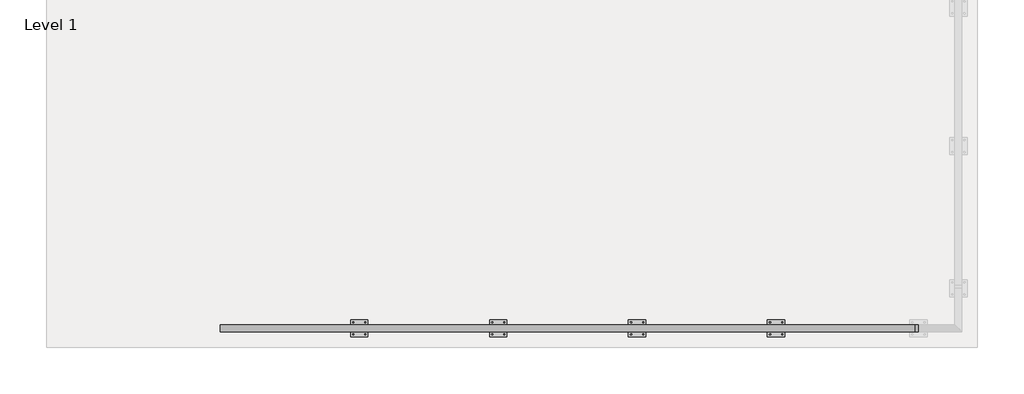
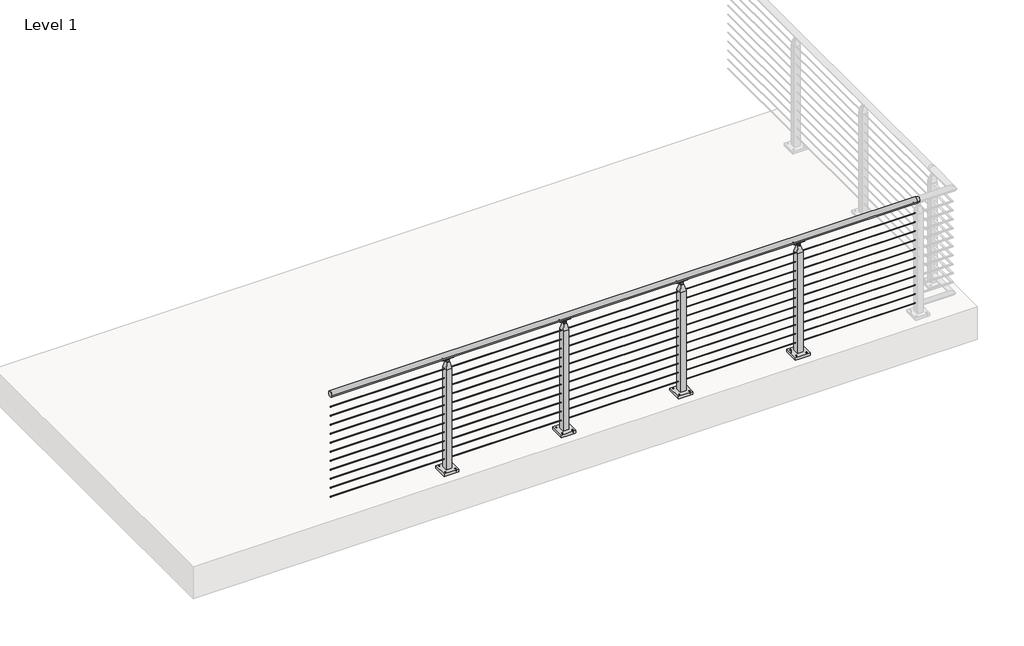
# One storey, part 9 of 26: 1 railing.
"""IFC4 building model written with IfcOpenShell, lengths in millimetres."""

from ifc_helpers import new_model, si_unit, point, frame, frame_2d, origin, origin_with_axes, place, context, project, spatial, polyline, circle_curve, trimmed, segment, composite_curve, outline, extrude, faceted_brep, element, save
from ifc_brep_helpers import plane_surface, cylinder_surface, advanced_brep

model = new_model("IFC4")

# Units and contexts
model_context = context("Model", 3, world=origin())
ifc_project = project(units=[si_unit("LENGTHUNIT", "METRE", prefix="MILLI")], contexts=[model_context])

# Site, building, storey
site = spatial("IfcSite", under=ifc_project)
building = spatial("IfcBuilding", under=site)
storey = spatial("IfcBuildingStorey", under=building, Name="Level 1", Elevation=0.0)

# Railing
placement = place(None, origin())
element("IfcRailing", 1, ObjectType="VIVA-CUBE-Cable-Floor Mount-Straight", at=placement, inside=storey, context=model_context, shape_type="SolidModel", body=[
    advanced_brep(
    [(14206.7823997, -57070.1334719, 1054.1), (14206.7823997, -57019.3334719, 1054.1), (19286.7823997, -57070.1334719, 1054.1), (19286.7823997, -57019.3334719, 1054.1), (19311.7855247, -57070.1334719, 1054.1), (19311.7855247, -57019.3334719, 1054.1)],
    [
        (0, 1, circle_curve(frame((14206.7823997, -57044.7334719, 1054.1), z_axis=(-1.0, 0.0, 0.0), x_axis=(0.0, 1.0, 0.0)), 25.4)),
        (1, 0, circle_curve(frame((14206.7823997, -57044.7334719, 1054.1), z_axis=(-1.0, 0.0, 0.0), x_axis=(0.0, 1.0, 0.0)), 25.4)),
        (0, 2),
        (2, 3, circle_curve(frame((19286.7823997, -57044.7334719, 1054.1), z_axis=(-1.0, 0.0, 0.0), x_axis=(0.0, 1.0, 0.0)), 25.4)),
        (3, 1),
        (3, 2, circle_curve(frame((19286.7823997, -57044.7334719, 1054.1), z_axis=(-1.0, 0.0, 0.0), x_axis=(0.0, 1.0, 0.0)), 25.4)),
        (4, 5, circle_curve(frame((19311.7855247, -57044.7334719, 1054.1), z_axis=(1.0, 0.0, 0.0), x_axis=(0.0, 1.0, 0.0)), 25.4)),
        (5, 4, circle_curve(frame((19311.7855247, -57044.7334719, 1054.1), z_axis=(1.0, 0.0, 0.0), x_axis=(0.0, 1.0, 0.0)), 25.4)),
        (2, 4),
        (5, 3),
    ],
    [
        plane_surface(frame((14206.7823997, -57044.7334719, 1079.5), z_axis=(-1.0, 0.0, 0.0), x_axis=(0.0, 1.0, 0.0))),
        cylinder_surface(frame((14206.7823997, -57044.7334719, 1054.1), z_axis=(-1.0, 0.0, 0.0), x_axis=(0.0, 1.0, 0.0)), 25.4),
        plane_surface(frame((19311.7855247, -57044.7334719, 1079.5), z_axis=(1.0, 0.0, 0.0), x_axis=(0.0, 1.0, 0.0))),
        cylinder_surface(frame((19286.7823997, -57044.7334719, 1054.1), z_axis=(-1.0, 0.0, 0.0), x_axis=(0.0, 1.0, 0.0)), 25.4),
    ],
    [
        (0, [[1, 2]]),
        (1, [[-1, 3, 4, 5]]),
        (1, [[-2, -5, 6, -3]]),
        (2, [[7, 8]]),
        (3, [[-4, 9, -8, 10]]),
        (3, [[-6, -10, -7, -9]]),
    ],
),
    extrude(outline(composite_curve([segment(trimmed(circle_curve(frame_2d((-57044.7334719, 937.4124)), 2.3876), [point((-57042.3458719, 937.4124))], [point((-57047.1210719, 937.4124))], False, "CARTESIAN"), True, "CONTINUOUS"), segment(trimmed(circle_curve(frame_2d((-57044.7334719, 937.4124)), 2.3876), [point((-57047.1210719, 937.4124))], [point((-57042.3458719, 937.4124))], False, "CARTESIAN"), True, "CONTINUOUS")], self_intersect=False)), frame((14206.7823997, 0.0, 0.0), z_axis=(1.0, 0.0, 0.0), x_axis=(0.0, 1.0, 0.0)), (0.0, 0.0, 1.0), 5080.0),
    extrude(outline(composite_curve([segment(trimmed(circle_curve(frame_2d((-57044.7334719, 854.8624)), 2.3876), [point((-57042.3458719, 854.8624))], [point((-57047.1210719, 854.8624))], False, "CARTESIAN"), True, "CONTINUOUS"), segment(trimmed(circle_curve(frame_2d((-57044.7334719, 854.8624)), 2.3876), [point((-57047.1210719, 854.8624))], [point((-57042.3458719, 854.8624))], False, "CARTESIAN"), True, "CONTINUOUS")], self_intersect=False)), frame((14206.7823997, 0.0, 0.0), z_axis=(1.0, 0.0, 0.0), x_axis=(0.0, 1.0, 0.0)), (0.0, 0.0, 1.0), 5080.0),
    extrude(outline(composite_curve([segment(trimmed(circle_curve(frame_2d((-57044.7334719, 772.3124)), 2.3876), [point((-57042.3458719, 772.3124))], [point((-57047.1210719, 772.3124))], False, "CARTESIAN"), True, "CONTINUOUS"), segment(trimmed(circle_curve(frame_2d((-57044.7334719, 772.3124)), 2.3876), [point((-57047.1210719, 772.3124))], [point((-57042.3458719, 772.3124))], False, "CARTESIAN"), True, "CONTINUOUS")], self_intersect=False)), frame((14206.7823997, 0.0, 0.0), z_axis=(1.0, 0.0, 0.0), x_axis=(0.0, 1.0, 0.0)), (0.0, 0.0, 1.0), 5080.0),
    extrude(outline(composite_curve([segment(trimmed(circle_curve(frame_2d((-57044.7334719, 689.7624)), 2.3876), [point((-57042.3458719, 689.7624))], [point((-57047.1210719, 689.7624))], False, "CARTESIAN"), True, "CONTINUOUS"), segment(trimmed(circle_curve(frame_2d((-57044.7334719, 689.7624)), 2.3876), [point((-57047.1210719, 689.7624))], [point((-57042.3458719, 689.7624))], False, "CARTESIAN"), True, "CONTINUOUS")], self_intersect=False)), frame((14206.7823997, 0.0, 0.0), z_axis=(1.0, 0.0, 0.0), x_axis=(0.0, 1.0, 0.0)), (0.0, 0.0, 1.0), 5080.0),
    extrude(outline(composite_curve([segment(trimmed(circle_curve(frame_2d((-57044.7334719, 607.2124)), 2.3876), [point((-57042.3458719, 607.2124))], [point((-57047.1210719, 607.2124))], False, "CARTESIAN"), True, "CONTINUOUS"), segment(trimmed(circle_curve(frame_2d((-57044.7334719, 607.2124)), 2.3876), [point((-57047.1210719, 607.2124))], [point((-57042.3458719, 607.2124))], False, "CARTESIAN"), True, "CONTINUOUS")], self_intersect=False)), frame((14206.7823997, 0.0, 0.0), z_axis=(1.0, 0.0, 0.0), x_axis=(0.0, 1.0, 0.0)), (0.0, 0.0, 1.0), 5080.0),
    extrude(outline(composite_curve([segment(trimmed(circle_curve(frame_2d((-57044.7334719, 524.6624)), 2.3876), [point((-57042.3458719, 524.6624))], [point((-57047.1210719, 524.6624))], False, "CARTESIAN"), True, "CONTINUOUS"), segment(trimmed(circle_curve(frame_2d((-57044.7334719, 524.6624)), 2.3876), [point((-57047.1210719, 524.6624))], [point((-57042.3458719, 524.6624))], False, "CARTESIAN"), True, "CONTINUOUS")], self_intersect=False)), frame((14206.7823997, 0.0, 0.0), z_axis=(1.0, 0.0, 0.0), x_axis=(0.0, 1.0, 0.0)), (0.0, 0.0, 1.0), 5080.0),
    extrude(outline(composite_curve([segment(trimmed(circle_curve(frame_2d((-57044.7334719, 442.1124)), 2.3876), [point((-57042.3458719, 442.1124))], [point((-57047.1210719, 442.1124))], False, "CARTESIAN"), True, "CONTINUOUS"), segment(trimmed(circle_curve(frame_2d((-57044.7334719, 442.1124)), 2.3876), [point((-57047.1210719, 442.1124))], [point((-57042.3458719, 442.1124))], False, "CARTESIAN"), True, "CONTINUOUS")], self_intersect=False)), frame((14206.7823997, 0.0, 0.0), z_axis=(1.0, 0.0, 0.0), x_axis=(0.0, 1.0, 0.0)), (0.0, 0.0, 1.0), 5080.0),
    extrude(outline(composite_curve([segment(trimmed(circle_curve(frame_2d((-57044.7334719, 359.5624)), 2.3876), [point((-57042.3458719, 359.5624))], [point((-57047.1210719, 359.5624))], False, "CARTESIAN"), True, "CONTINUOUS"), segment(trimmed(circle_curve(frame_2d((-57044.7334719, 359.5624)), 2.3876), [point((-57047.1210719, 359.5624))], [point((-57042.3458719, 359.5624))], False, "CARTESIAN"), True, "CONTINUOUS")], self_intersect=False)), frame((14206.7823997, 0.0, 0.0), z_axis=(1.0, 0.0, 0.0), x_axis=(0.0, 1.0, 0.0)), (0.0, 0.0, 1.0), 5080.0),
    extrude(outline(composite_curve([segment(trimmed(circle_curve(frame_2d((-57044.7334719, 277.0124)), 2.3876), [point((-57042.3458719, 277.0124))], [point((-57047.1210719, 277.0124))], False, "CARTESIAN"), True, "CONTINUOUS"), segment(trimmed(circle_curve(frame_2d((-57044.7334719, 277.0124)), 2.3876), [point((-57047.1210719, 277.0124))], [point((-57042.3458719, 277.0124))], False, "CARTESIAN"), True, "CONTINUOUS")], self_intersect=False)), frame((14206.7823997, 0.0, 0.0), z_axis=(1.0, 0.0, 0.0), x_axis=(0.0, 1.0, 0.0)), (0.0, 0.0, 1.0), 5080.0),
    extrude(outline(composite_curve([segment(trimmed(circle_curve(frame_2d((-57044.7334719, 194.4624)), 2.3876), [point((-57042.3458719, 194.4624))], [point((-57047.1210719, 194.4624))], False, "CARTESIAN"), True, "CONTINUOUS"), segment(trimmed(circle_curve(frame_2d((-57044.7334719, 194.4624)), 2.3876), [point((-57047.1210719, 194.4624))], [point((-57042.3458719, 194.4624))], False, "CARTESIAN"), True, "CONTINUOUS")], self_intersect=False)), frame((14206.7823997, 0.0, 0.0), z_axis=(1.0, 0.0, 0.0), x_axis=(0.0, 1.0, 0.0)), (0.0, 0.0, 1.0), 5080.0),
    extrude(outline(composite_curve([segment(trimmed(circle_curve(frame_2d((-57044.7334719, 111.9124)), 2.3876), [point((-57042.3458719, 111.9124))], [point((-57047.1210719, 111.9124))], False, "CARTESIAN"), True, "CONTINUOUS"), segment(trimmed(circle_curve(frame_2d((-57044.7334719, 111.9124)), 2.3876), [point((-57047.1210719, 111.9124))], [point((-57042.3458719, 111.9124))], False, "CARTESIAN"), True, "CONTINUOUS")], self_intersect=False)), frame((14206.7823997, 0.0, 0.0), z_axis=(1.0, 0.0, 0.0), x_axis=(0.0, 1.0, 0.0)), (0.0, 0.0, 1.0), 5080.0),
    extrude(outline(polyline([(18334.6792747, -56981.2334719), (18334.6792747, -57108.2334719), (18207.6792747, -57108.2334719), (18207.6792747, -56981.2334719), (18334.6792747, -56981.2334719)]), holes=[composite_curve([segment(trimmed(circle_curve(frame_2d((18226.7292747, -57089.1834719)), 4.7625), [point((18226.7292747, -57093.9459719))], [point((18226.7292747, -57084.4209719))], True, "CARTESIAN"), True, "CONTINUOUS"), segment(trimmed(circle_curve(frame_2d((18226.7292747, -57089.1834719)), 4.7625), [point((18226.7292747, -57084.4209719))], [point((18226.7292747, -57093.9459719))], True, "CARTESIAN"), True, "CONTINUOUS")], self_intersect=False), composite_curve([segment(trimmed(circle_curve(frame_2d((18226.7292747, -57000.2834719)), 4.7625), [point((18226.7292747, -57005.0459719))], [point((18226.7292747, -56995.5209719))], True, "CARTESIAN"), True, "CONTINUOUS"), segment(trimmed(circle_curve(frame_2d((18226.7292747, -57000.2834719)), 4.7625), [point((18226.7292747, -56995.5209719))], [point((18226.7292747, -57005.0459719))], True, "CARTESIAN"), True, "CONTINUOUS")], self_intersect=False), composite_curve([segment(trimmed(circle_curve(frame_2d((18315.6292747, -57089.1834719)), 4.7625), [point((18315.6292747, -57093.9459719))], [point((18315.6292747, -57084.4209719))], True, "CARTESIAN"), True, "CONTINUOUS"), segment(trimmed(circle_curve(frame_2d((18315.6292747, -57089.1834719)), 4.7625), [point((18315.6292747, -57084.4209719))], [point((18315.6292747, -57093.9459719))], True, "CARTESIAN"), True, "CONTINUOUS")], self_intersect=False), composite_curve([segment(trimmed(circle_curve(frame_2d((18315.6292747, -57000.2834719)), 4.7625), [point((18315.6292747, -57005.0459719))], [point((18315.6292747, -56995.5209719))], True, "CARTESIAN"), True, "CONTINUOUS"), segment(trimmed(circle_curve(frame_2d((18315.6292747, -57000.2834719)), 4.7625), [point((18315.6292747, -56995.5209719))], [point((18315.6292747, -57005.0459719))], True, "CARTESIAN"), True, "CONTINUOUS")], self_intersect=False)]), origin_with_axes(), (0.0, 0.0, 1.0), 25.4),
    faceted_brep([(18283.8792747, -57032.0334719, 997.2902749), (18258.4792747, -57032.0334719, 997.2902749), (18258.4792747, -57040.7647219, 997.2902749), (18283.8792747, -57040.7647219, 997.2902749), (18258.4792747, -57057.4334719, 997.2902749), (18283.8792747, -57057.4334719, 997.2902749), (18283.8792747, -57048.7022219, 997.2902749), (18258.4792747, -57048.7022219, 997.2902749), (18296.5792747, -57019.3334719, 941.1347854), (18296.5792747, -57070.1334719, 941.1347854), (18245.7792747, -57019.3334719, 941.1347854), (18245.7792747, -57070.1334719, 941.1347854), (18296.5792747, -57019.3334719, 25.4), (18296.5792747, -57070.1334719, 25.4), (18245.7792747, -57070.1334719, 25.4), (18245.7792747, -57019.3334719, 25.4), (18258.4792747, -57048.7022219, 1009.3306013), (18283.8792747, -57048.7022219, 1009.3306013), (18283.8792747, -57040.7647219, 1009.3306013), (18258.4792747, -57040.7647219, 1009.3306013)], [[[0, 1, 2, 3]], [[4, 5, 6, 7]], [[8, 0, 3, 6, 5, 9]], [[1, 0, 8, 10]], [[1, 10, 11, 4, 7, 2]], [[5, 4, 11, 9]], [[12, 13, 14, 15]], [[12, 15, 10, 8]], [[15, 14, 11, 10]], [[14, 13, 9, 11]], [[13, 12, 8, 9]], [[16, 17, 18, 19]], [[17, 16, 7, 6]], [[18, 17, 6, 3]], [[19, 18, 3, 2]], [[16, 19, 2, 7]]]),
    extrude(outline(composite_curve([segment(trimmed(circle_curve(frame_2d((-57044.6367435, 1054.1433184)), 25.4345159), [point((-57057.2005464, 1032.0284941))], [point((-57032.2415097, 1031.9335733))], True, "CARTESIAN"), True, "CONTINUOUS"), segment(trimmed(circle_curve(frame_2d((-57030.9968566, 1029.4310885)), 2.7949225), [point((-57032.2415097, 1031.9335733))], [point((-57029.5195515, 1027.0585031))], False, "CARTESIAN"), True, "CONTINUOUS"), segment(trimmed(circle_curve(frame_2d((-57044.7702066, 1054.905945)), 31.75), [point((-57029.5195515, 1027.0585031))], [point((-57061.0364438, 1027.6392616))], False, "CARTESIAN"), True, "CONTINUOUS"), segment(trimmed(circle_curve(frame_2d((-57058.748104, 1029.5101807)), 2.9558141), [point((-57061.0364438, 1027.6392616))], [point((-57057.2005464, 1032.0284941))], False, "CARTESIAN"), True, "CONTINUOUS")], self_intersect=False)), frame((18225.9418747, 0.0, 0.0), z_axis=(1.0, 0.0, 0.0), x_axis=(0.0, 1.0, 0.0)), (0.0, 0.0, 1.0), 90.4748),
    extrude(outline(composite_curve([segment(polyline([(1023.3685171, 18298.2471896), (1023.3685171, 18244.1113598)]), True, "CONTINUOUS"), segment(trimmed(circle_curve(frame_2d((1009.0006022, 18244.1113598)), 14.3679149), [point((1023.3685171, 18244.1113598))], [point((1009.0006022, 18258.4792747))], True, "CARTESIAN"), True, "CONTINUOUS"), segment(trimmed(circle_curve(frame_2d((1009.0006022, 18271.1792747)), 12.7), [point((1009.0006022, 18258.4792747))], [point((1009.0006022, 18283.8792747))], False, "CARTESIAN"), True, "CONTINUOUS"), segment(trimmed(circle_curve(frame_2d((1009.0006022, 18298.2471896)), 14.3679149), [point((1009.0006022, 18283.8792747))], [point((1023.3685171, 18298.2471896))], True, "CARTESIAN"), True, "CONTINUOUS")], self_intersect=False)), frame((0.0, -57047.2734719, 0.0), z_axis=(0.0, 1.0, 0.0), x_axis=(0.0, 0.0, 1.0)), (0.0, 0.0, 1.0), 5.08),
    extrude(outline(polyline([(17318.6792747, -56981.2334719), (17318.6792747, -57108.2334719), (17191.6792747, -57108.2334719), (17191.6792747, -56981.2334719), (17318.6792747, -56981.2334719)]), holes=[composite_curve([segment(trimmed(circle_curve(frame_2d((17210.7292747, -57089.1834719)), 4.7625), [point((17210.7292747, -57093.9459719))], [point((17210.7292747, -57084.4209719))], True, "CARTESIAN"), True, "CONTINUOUS"), segment(trimmed(circle_curve(frame_2d((17210.7292747, -57089.1834719)), 4.7625), [point((17210.7292747, -57084.4209719))], [point((17210.7292747, -57093.9459719))], True, "CARTESIAN"), True, "CONTINUOUS")], self_intersect=False), composite_curve([segment(trimmed(circle_curve(frame_2d((17210.7292747, -57000.2834719)), 4.7625), [point((17210.7292747, -57005.0459719))], [point((17210.7292747, -56995.5209719))], True, "CARTESIAN"), True, "CONTINUOUS"), segment(trimmed(circle_curve(frame_2d((17210.7292747, -57000.2834719)), 4.7625), [point((17210.7292747, -56995.5209719))], [point((17210.7292747, -57005.0459719))], True, "CARTESIAN"), True, "CONTINUOUS")], self_intersect=False), composite_curve([segment(trimmed(circle_curve(frame_2d((17299.6292747, -57089.1834719)), 4.7625), [point((17299.6292747, -57093.9459719))], [point((17299.6292747, -57084.4209719))], True, "CARTESIAN"), True, "CONTINUOUS"), segment(trimmed(circle_curve(frame_2d((17299.6292747, -57089.1834719)), 4.7625), [point((17299.6292747, -57084.4209719))], [point((17299.6292747, -57093.9459719))], True, "CARTESIAN"), True, "CONTINUOUS")], self_intersect=False), composite_curve([segment(trimmed(circle_curve(frame_2d((17299.6292747, -57000.2834719)), 4.7625), [point((17299.6292747, -57005.0459719))], [point((17299.6292747, -56995.5209719))], True, "CARTESIAN"), True, "CONTINUOUS"), segment(trimmed(circle_curve(frame_2d((17299.6292747, -57000.2834719)), 4.7625), [point((17299.6292747, -56995.5209719))], [point((17299.6292747, -57005.0459719))], True, "CARTESIAN"), True, "CONTINUOUS")], self_intersect=False)]), origin_with_axes(), (0.0, 0.0, 1.0), 25.4),
    faceted_brep([(17267.8792747, -57032.0334719, 997.2902749), (17242.4792747, -57032.0334719, 997.2902749), (17242.4792747, -57040.7647219, 997.2902749), (17267.8792747, -57040.7647219, 997.2902749), (17242.4792747, -57057.4334719, 997.2902749), (17267.8792747, -57057.4334719, 997.2902749), (17267.8792747, -57048.7022219, 997.2902749), (17242.4792747, -57048.7022219, 997.2902749), (17280.5792747, -57019.3334719, 941.1347854), (17280.5792747, -57070.1334719, 941.1347854), (17229.7792747, -57019.3334719, 941.1347854), (17229.7792747, -57070.1334719, 941.1347854), (17280.5792747, -57019.3334719, 25.4), (17280.5792747, -57070.1334719, 25.4), (17229.7792747, -57070.1334719, 25.4), (17229.7792747, -57019.3334719, 25.4), (17242.4792747, -57048.7022219, 1009.3306013), (17267.8792747, -57048.7022219, 1009.3306013), (17267.8792747, -57040.7647219, 1009.3306013), (17242.4792747, -57040.7647219, 1009.3306013)], [[[0, 1, 2, 3]], [[4, 5, 6, 7]], [[8, 0, 3, 6, 5, 9]], [[1, 0, 8, 10]], [[1, 10, 11, 4, 7, 2]], [[5, 4, 11, 9]], [[12, 13, 14, 15]], [[12, 15, 10, 8]], [[15, 14, 11, 10]], [[14, 13, 9, 11]], [[13, 12, 8, 9]], [[16, 17, 18, 19]], [[17, 16, 7, 6]], [[18, 17, 6, 3]], [[19, 18, 3, 2]], [[16, 19, 2, 7]]]),
    extrude(outline(composite_curve([segment(trimmed(circle_curve(frame_2d((-57044.6367435, 1054.1433184)), 25.4345159), [point((-57057.2005464, 1032.0284941))], [point((-57032.2415097, 1031.9335733))], True, "CARTESIAN"), True, "CONTINUOUS"), segment(trimmed(circle_curve(frame_2d((-57030.9968566, 1029.4310885)), 2.7949225), [point((-57032.2415097, 1031.9335733))], [point((-57029.5195515, 1027.0585031))], False, "CARTESIAN"), True, "CONTINUOUS"), segment(trimmed(circle_curve(frame_2d((-57044.7702066, 1054.905945)), 31.75), [point((-57029.5195515, 1027.0585031))], [point((-57061.0364438, 1027.6392616))], False, "CARTESIAN"), True, "CONTINUOUS"), segment(trimmed(circle_curve(frame_2d((-57058.748104, 1029.5101807)), 2.9558141), [point((-57061.0364438, 1027.6392616))], [point((-57057.2005464, 1032.0284941))], False, "CARTESIAN"), True, "CONTINUOUS")], self_intersect=False)), frame((17209.9418747, 0.0, 0.0), z_axis=(1.0, 0.0, 0.0), x_axis=(0.0, 1.0, 0.0)), (0.0, 0.0, 1.0), 90.4748),
    extrude(outline(composite_curve([segment(polyline([(1023.3685171, 17282.2471896), (1023.3685171, 17228.1113598)]), True, "CONTINUOUS"), segment(trimmed(circle_curve(frame_2d((1009.0006022, 17228.1113598)), 14.3679149), [point((1023.3685171, 17228.1113598))], [point((1009.0006022, 17242.4792747))], True, "CARTESIAN"), True, "CONTINUOUS"), segment(trimmed(circle_curve(frame_2d((1009.0006022, 17255.1792747)), 12.7), [point((1009.0006022, 17242.4792747))], [point((1009.0006022, 17267.8792747))], False, "CARTESIAN"), True, "CONTINUOUS"), segment(trimmed(circle_curve(frame_2d((1009.0006022, 17282.2471896)), 14.3679149), [point((1009.0006022, 17267.8792747))], [point((1023.3685171, 17282.2471896))], True, "CARTESIAN"), True, "CONTINUOUS")], self_intersect=False)), frame((0.0, -57047.2734719, 0.0), z_axis=(0.0, 1.0, 0.0), x_axis=(0.0, 0.0, 1.0)), (0.0, 0.0, 1.0), 5.08),
    extrude(outline(polyline([(16302.6792747, -56981.2334719), (16302.6792747, -57108.2334719), (16175.6792747, -57108.2334719), (16175.6792747, -56981.2334719), (16302.6792747, -56981.2334719)]), holes=[composite_curve([segment(trimmed(circle_curve(frame_2d((16194.7292747, -57089.1834719)), 4.7625), [point((16194.7292747, -57093.9459719))], [point((16194.7292747, -57084.4209719))], True, "CARTESIAN"), True, "CONTINUOUS"), segment(trimmed(circle_curve(frame_2d((16194.7292747, -57089.1834719)), 4.7625), [point((16194.7292747, -57084.4209719))], [point((16194.7292747, -57093.9459719))], True, "CARTESIAN"), True, "CONTINUOUS")], self_intersect=False), composite_curve([segment(trimmed(circle_curve(frame_2d((16194.7292747, -57000.2834719)), 4.7625), [point((16194.7292747, -57005.0459719))], [point((16194.7292747, -56995.5209719))], True, "CARTESIAN"), True, "CONTINUOUS"), segment(trimmed(circle_curve(frame_2d((16194.7292747, -57000.2834719)), 4.7625), [point((16194.7292747, -56995.5209719))], [point((16194.7292747, -57005.0459719))], True, "CARTESIAN"), True, "CONTINUOUS")], self_intersect=False), composite_curve([segment(trimmed(circle_curve(frame_2d((16283.6292747, -57089.1834719)), 4.7625), [point((16283.6292747, -57093.9459719))], [point((16283.6292747, -57084.4209719))], True, "CARTESIAN"), True, "CONTINUOUS"), segment(trimmed(circle_curve(frame_2d((16283.6292747, -57089.1834719)), 4.7625), [point((16283.6292747, -57084.4209719))], [point((16283.6292747, -57093.9459719))], True, "CARTESIAN"), True, "CONTINUOUS")], self_intersect=False), composite_curve([segment(trimmed(circle_curve(frame_2d((16283.6292747, -57000.2834719)), 4.7625), [point((16283.6292747, -57005.0459719))], [point((16283.6292747, -56995.5209719))], True, "CARTESIAN"), True, "CONTINUOUS"), segment(trimmed(circle_curve(frame_2d((16283.6292747, -57000.2834719)), 4.7625), [point((16283.6292747, -56995.5209719))], [point((16283.6292747, -57005.0459719))], True, "CARTESIAN"), True, "CONTINUOUS")], self_intersect=False)]), origin_with_axes(), (0.0, 0.0, 1.0), 25.4),
    faceted_brep([(16251.8792747, -57032.0334719, 997.2902749), (16226.4792747, -57032.0334719, 997.2902749), (16226.4792747, -57040.7647219, 997.2902749), (16251.8792747, -57040.7647219, 997.2902749), (16226.4792747, -57057.4334719, 997.2902749), (16251.8792747, -57057.4334719, 997.2902749), (16251.8792747, -57048.7022219, 997.2902749), (16226.4792747, -57048.7022219, 997.2902749), (16264.5792747, -57019.3334719, 941.1347854), (16264.5792747, -57070.1334719, 941.1347854), (16213.7792747, -57019.3334719, 941.1347854), (16213.7792747, -57070.1334719, 941.1347854), (16264.5792747, -57019.3334719, 25.4), (16264.5792747, -57070.1334719, 25.4), (16213.7792747, -57070.1334719, 25.4), (16213.7792747, -57019.3334719, 25.4), (16226.4792747, -57048.7022219, 1009.3306013), (16251.8792747, -57048.7022219, 1009.3306013), (16251.8792747, -57040.7647219, 1009.3306013), (16226.4792747, -57040.7647219, 1009.3306013)], [[[0, 1, 2, 3]], [[4, 5, 6, 7]], [[8, 0, 3, 6, 5, 9]], [[1, 0, 8, 10]], [[1, 10, 11, 4, 7, 2]], [[5, 4, 11, 9]], [[12, 13, 14, 15]], [[12, 15, 10, 8]], [[15, 14, 11, 10]], [[14, 13, 9, 11]], [[13, 12, 8, 9]], [[16, 17, 18, 19]], [[17, 16, 7, 6]], [[18, 17, 6, 3]], [[19, 18, 3, 2]], [[16, 19, 2, 7]]]),
    extrude(outline(composite_curve([segment(trimmed(circle_curve(frame_2d((-57044.6367435, 1054.1433184)), 25.4345159), [point((-57057.2005464, 1032.0284941))], [point((-57032.2415097, 1031.9335733))], True, "CARTESIAN"), True, "CONTINUOUS"), segment(trimmed(circle_curve(frame_2d((-57030.9968566, 1029.4310885)), 2.7949225), [point((-57032.2415097, 1031.9335733))], [point((-57029.5195515, 1027.0585031))], False, "CARTESIAN"), True, "CONTINUOUS"), segment(trimmed(circle_curve(frame_2d((-57044.7702066, 1054.905945)), 31.75), [point((-57029.5195515, 1027.0585031))], [point((-57061.0364438, 1027.6392616))], False, "CARTESIAN"), True, "CONTINUOUS"), segment(trimmed(circle_curve(frame_2d((-57058.748104, 1029.5101807)), 2.9558141), [point((-57061.0364438, 1027.6392616))], [point((-57057.2005464, 1032.0284941))], False, "CARTESIAN"), True, "CONTINUOUS")], self_intersect=False)), frame((16193.9418747, 0.0, 0.0), z_axis=(1.0, 0.0, 0.0), x_axis=(0.0, 1.0, 0.0)), (0.0, 0.0, 1.0), 90.4748),
    extrude(outline(composite_curve([segment(polyline([(1023.3685171, 16266.2471896), (1023.3685171, 16212.1113598)]), True, "CONTINUOUS"), segment(trimmed(circle_curve(frame_2d((1009.0006022, 16212.1113598)), 14.3679149), [point((1023.3685171, 16212.1113598))], [point((1009.0006022, 16226.4792747))], True, "CARTESIAN"), True, "CONTINUOUS"), segment(trimmed(circle_curve(frame_2d((1009.0006022, 16239.1792747)), 12.7), [point((1009.0006022, 16226.4792747))], [point((1009.0006022, 16251.8792747))], False, "CARTESIAN"), True, "CONTINUOUS"), segment(trimmed(circle_curve(frame_2d((1009.0006022, 16266.2471896)), 14.3679149), [point((1009.0006022, 16251.8792747))], [point((1023.3685171, 16266.2471896))], True, "CARTESIAN"), True, "CONTINUOUS")], self_intersect=False)), frame((0.0, -57047.2734719, 0.0), z_axis=(0.0, 1.0, 0.0), x_axis=(0.0, 0.0, 1.0)), (0.0, 0.0, 1.0), 5.08),
    extrude(outline(polyline([(15286.6792747, -56981.2334719), (15286.6792747, -57108.2334719), (15159.6792747, -57108.2334719), (15159.6792747, -56981.2334719), (15286.6792747, -56981.2334719)]), holes=[composite_curve([segment(trimmed(circle_curve(frame_2d((15178.7292747, -57089.1834719)), 4.7625), [point((15178.7292747, -57093.9459719))], [point((15178.7292747, -57084.4209719))], True, "CARTESIAN"), True, "CONTINUOUS"), segment(trimmed(circle_curve(frame_2d((15178.7292747, -57089.1834719)), 4.7625), [point((15178.7292747, -57084.4209719))], [point((15178.7292747, -57093.9459719))], True, "CARTESIAN"), True, "CONTINUOUS")], self_intersect=False), composite_curve([segment(trimmed(circle_curve(frame_2d((15178.7292747, -57000.2834719)), 4.7625), [point((15178.7292747, -57005.0459719))], [point((15178.7292747, -56995.5209719))], True, "CARTESIAN"), True, "CONTINUOUS"), segment(trimmed(circle_curve(frame_2d((15178.7292747, -57000.2834719)), 4.7625), [point((15178.7292747, -56995.5209719))], [point((15178.7292747, -57005.0459719))], True, "CARTESIAN"), True, "CONTINUOUS")], self_intersect=False), composite_curve([segment(trimmed(circle_curve(frame_2d((15267.6292747, -57089.1834719)), 4.7625), [point((15267.6292747, -57093.9459719))], [point((15267.6292747, -57084.4209719))], True, "CARTESIAN"), True, "CONTINUOUS"), segment(trimmed(circle_curve(frame_2d((15267.6292747, -57089.1834719)), 4.7625), [point((15267.6292747, -57084.4209719))], [point((15267.6292747, -57093.9459719))], True, "CARTESIAN"), True, "CONTINUOUS")], self_intersect=False), composite_curve([segment(trimmed(circle_curve(frame_2d((15267.6292747, -57000.2834719)), 4.7625), [point((15267.6292747, -57005.0459719))], [point((15267.6292747, -56995.5209719))], True, "CARTESIAN"), True, "CONTINUOUS"), segment(trimmed(circle_curve(frame_2d((15267.6292747, -57000.2834719)), 4.7625), [point((15267.6292747, -56995.5209719))], [point((15267.6292747, -57005.0459719))], True, "CARTESIAN"), True, "CONTINUOUS")], self_intersect=False)]), origin_with_axes(), (0.0, 0.0, 1.0), 25.4),
    faceted_brep([(15235.8792747, -57032.0334719, 997.2902749), (15210.4792747, -57032.0334719, 997.2902749), (15210.4792747, -57040.7647219, 997.2902749), (15235.8792747, -57040.7647219, 997.2902749), (15210.4792747, -57057.4334719, 997.2902749), (15235.8792747, -57057.4334719, 997.2902749), (15235.8792747, -57048.7022219, 997.2902749), (15210.4792747, -57048.7022219, 997.2902749), (15248.5792747, -57019.3334719, 941.1347854), (15248.5792747, -57070.1334719, 941.1347854), (15197.7792747, -57019.3334719, 941.1347854), (15197.7792747, -57070.1334719, 941.1347854), (15248.5792747, -57019.3334719, 25.4), (15248.5792747, -57070.1334719, 25.4), (15197.7792747, -57070.1334719, 25.4), (15197.7792747, -57019.3334719, 25.4), (15210.4792747, -57048.7022219, 1009.3306013), (15235.8792747, -57048.7022219, 1009.3306013), (15235.8792747, -57040.7647219, 1009.3306013), (15210.4792747, -57040.7647219, 1009.3306013)], [[[0, 1, 2, 3]], [[4, 5, 6, 7]], [[8, 0, 3, 6, 5, 9]], [[1, 0, 8, 10]], [[1, 10, 11, 4, 7, 2]], [[5, 4, 11, 9]], [[12, 13, 14, 15]], [[12, 15, 10, 8]], [[15, 14, 11, 10]], [[14, 13, 9, 11]], [[13, 12, 8, 9]], [[16, 17, 18, 19]], [[17, 16, 7, 6]], [[18, 17, 6, 3]], [[19, 18, 3, 2]], [[16, 19, 2, 7]]]),
    extrude(outline(composite_curve([segment(trimmed(circle_curve(frame_2d((-57044.6367435, 1054.1433184)), 25.4345159), [point((-57057.2005464, 1032.0284941))], [point((-57032.2415097, 1031.9335733))], True, "CARTESIAN"), True, "CONTINUOUS"), segment(trimmed(circle_curve(frame_2d((-57030.9968566, 1029.4310885)), 2.7949225), [point((-57032.2415097, 1031.9335733))], [point((-57029.5195515, 1027.0585031))], False, "CARTESIAN"), True, "CONTINUOUS"), segment(trimmed(circle_curve(frame_2d((-57044.7702066, 1054.905945)), 31.75), [point((-57029.5195515, 1027.0585031))], [point((-57061.0364438, 1027.6392616))], False, "CARTESIAN"), True, "CONTINUOUS"), segment(trimmed(circle_curve(frame_2d((-57058.748104, 1029.5101807)), 2.9558141), [point((-57061.0364438, 1027.6392616))], [point((-57057.2005464, 1032.0284941))], False, "CARTESIAN"), True, "CONTINUOUS")], self_intersect=False)), frame((15177.9418747, 0.0, 0.0), z_axis=(1.0, 0.0, 0.0), x_axis=(0.0, 1.0, 0.0)), (0.0, 0.0, 1.0), 90.4748),
    extrude(outline(composite_curve([segment(polyline([(1023.3685171, 15250.2471896), (1023.3685171, 15196.1113598)]), True, "CONTINUOUS"), segment(trimmed(circle_curve(frame_2d((1009.0006022, 15196.1113598)), 14.3679149), [point((1023.3685171, 15196.1113598))], [point((1009.0006022, 15210.4792747))], True, "CARTESIAN"), True, "CONTINUOUS"), segment(trimmed(circle_curve(frame_2d((1009.0006022, 15223.1792747)), 12.7), [point((1009.0006022, 15210.4792747))], [point((1009.0006022, 15235.8792747))], False, "CARTESIAN"), True, "CONTINUOUS"), segment(trimmed(circle_curve(frame_2d((1009.0006022, 15250.2471896)), 14.3679149), [point((1009.0006022, 15235.8792747))], [point((1023.3685171, 15250.2471896))], True, "CARTESIAN"), True, "CONTINUOUS")], self_intersect=False)), frame((0.0, -57047.2734719, 0.0), z_axis=(0.0, 1.0, 0.0), x_axis=(0.0, 0.0, 1.0)), (0.0, 0.0, 1.0), 5.08),
])

save(model, "model.ifc")
